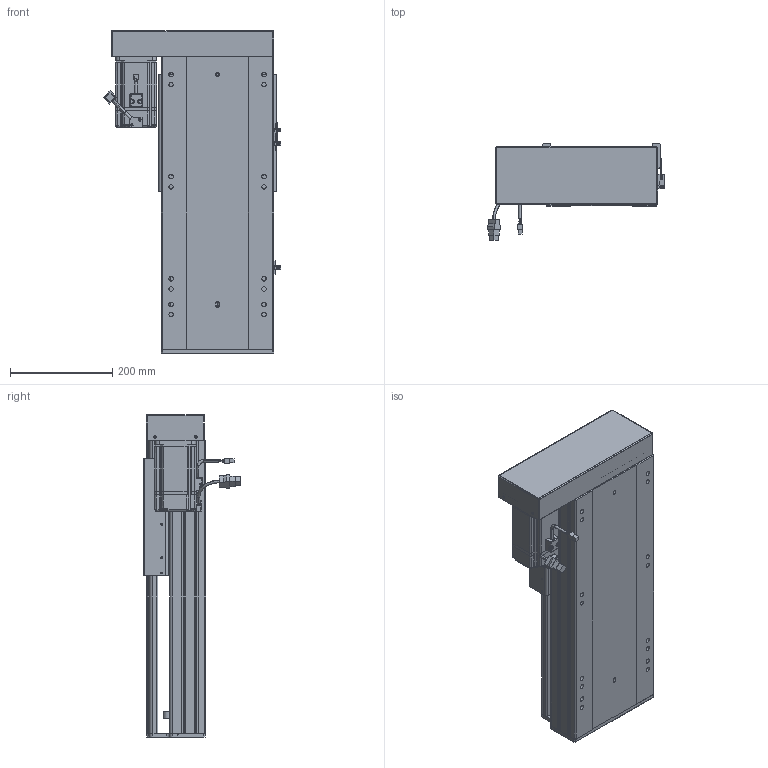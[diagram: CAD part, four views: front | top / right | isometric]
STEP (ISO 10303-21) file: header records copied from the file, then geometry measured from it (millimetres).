
FILE_DESCRIPTION (( 'STEP AP203' ), '1' );
FILE_NAME ('RY220-L2525-300-LK.SLDASM_250.step', '2022-07-04T01:46:20', ( '' ), ( '' ), 'SwSTEP 2.0', 'SolidWorks 2016', '' );
FILE_SCHEMA (( 'CONFIG_CONTROL_DESIGN' ));
Length unit declared in the file: millimetre
Products named in the file (12): 怢湛750W_ECMA-CX0807ES; RY220半封闭25-32螺母铝滑块; 滅袉蝶18-10; RY220蛌殏菁釱-300_250; 滅袉蝶18-15; 覜茼ん672; RY220-俋离672覜茼んえ; RY220-300-蛌殏奻裔啣_250; RY220-L2525-300-LK.SLDASM_250; RY220酘衵殏萇儂欶; RY220綴裔啣; RY220左右折电机安装板
Assembly tree (15 placements, depth 2):
  RY220-L2525-300-LK.SLDASM_250
    RY220蛌殏菁釱-300_250
    RY220-300-蛌殏奻裔啣_250
    怢湛750W_ECMA-CX0807ES
    滅袉蝶18-10  x2
    RY220-俋离672覜茼んえ
    覜茼ん672  x3
    RY220綴裔啣
    RY220半封闭25-32螺母铝滑块
    滅袉蝶18-15  x2
    RY220左右折电机安装板
    RY220酘衵殏萇儂欶
Bounding box: 347.44 x 189.27 x 632 mm (x, y, z)
Volume: 6704611.6 mm3; surface area: 1795362.8 mm2
Topology: 16 solids, 16 shells, 1993 faces, 5496 edges, 3509 vertices
Faces by surface type: plane 896, cylinder 865, cone 162, bspline 44, sphere 16, torus 10
Entity records: 65837 total; most frequent: CARTESIAN_POINT 19357, ORIENTED_EDGE 9696, DIRECTION 8960, EDGE_CURVE 4848, VERTEX_POINT 3165, AXIS2_PLACEMENT_3D 3099, VECTOR 2762, LINE 2762
